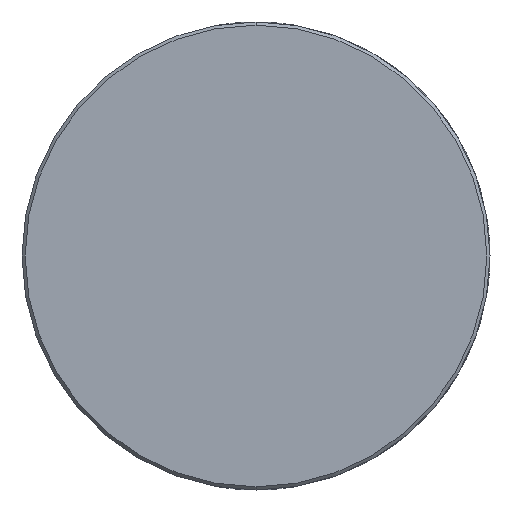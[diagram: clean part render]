
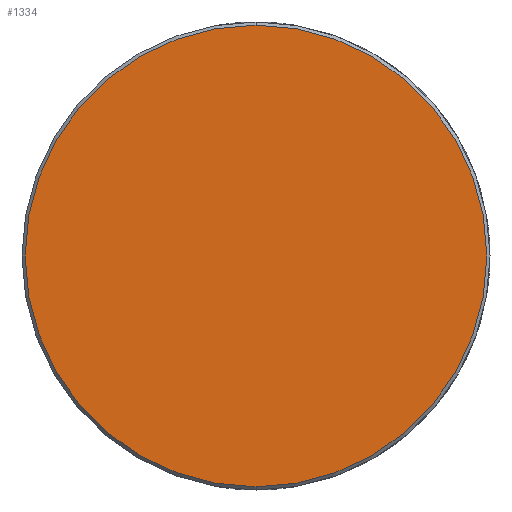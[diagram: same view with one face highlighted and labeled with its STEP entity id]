
A CAD part, front view. The second image highlights one B-rep face of the part: STEP entity #1334.
In plain terms, the highlighted planar face has unit normal (0, -1, 0).
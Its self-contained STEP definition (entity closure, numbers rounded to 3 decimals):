
#372=CARTESIAN_POINT('',(0.0,-139.348,36.0));
#373=VERTEX_POINT('',#372);
#382=CARTESIAN_POINT('',(0.0,-139.348,-36.0));
#383=VERTEX_POINT('',#382);
#384=CARTESIAN_POINT('',(0.0,-139.348,0.0));
#385=DIRECTION('',(0.0,-1.0,0.0));
#386=DIRECTION('',(0.0,0.0,1.0));
#387=AXIS2_PLACEMENT_3D('',#384,#385,#386);
#388=CIRCLE('',#387,36.0);
#389=EDGE_CURVE('no 1180',#383,#373,#388,.T.);
#1319=CARTESIAN_POINT('',(0.0,-139.348,0.0));
#1320=DIRECTION('',(0.0,-1.0,0.0));
#1321=DIRECTION('',(0.0,0.0,1.0));
#1322=AXIS2_PLACEMENT_3D('',#1319,#1320,#1321);
#1323=CIRCLE('',#1322,36.0);
#1324=EDGE_CURVE('no 1743',#373,#383,#1323,.T.);
#1325=ORIENTED_EDGE('',*,*,#1324,.T.);
#1326=ORIENTED_EDGE('',*,*,#389,.T.);
#1327=EDGE_LOOP('',(#1325,#1326));
#1328=FACE_OUTER_BOUND('',#1327,.T.);
#1329=CARTESIAN_POINT('',(36.5,-139.348,0.0));
#1330=DIRECTION('',(0.0,1.0,0.0));
#1331=DIRECTION('',(0.0,0.0,-1.0));
#1332=AXIS2_PLACEMENT_3D('',#1329,#1330,#1331);
#1333=PLANE('',#1332);
#1334=ADVANCED_FACE('no 1738',(#1328),#1333,.F.);
